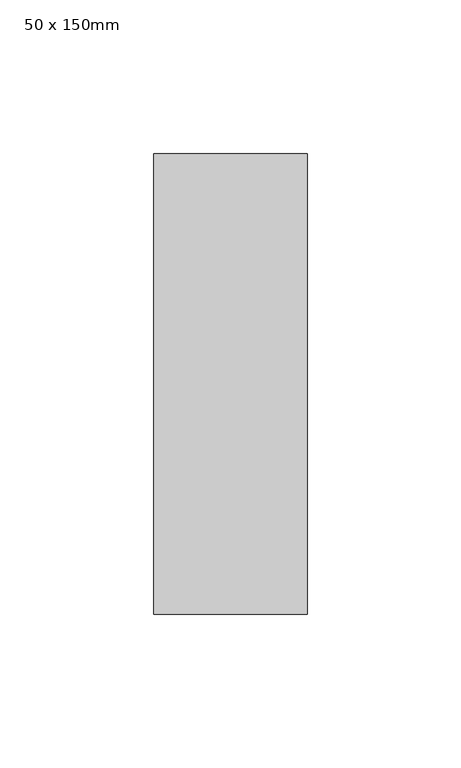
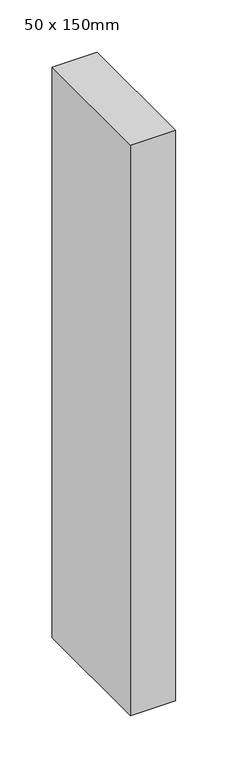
"""IFC4 building model written with IfcOpenShell, lengths in millimetres: member geometry, Prostokątny szpros : 50 x 150mm."""

from ifc_helpers import new_model, si_unit, frame, origin, place, context, project, spatial, polyline, outline, extrude, source, transform, mapped, element, save


def member_50_x_150mm_925638e4(model_context):
    return source(origin(), model_context, "Body", "SweptSolid", [
        extrude(outline(polyline([(0.0, 75.0), (0.0, -75.0), (-50.0, -75.0), (-50.0, 75.0), (0.0, 75.0)])), frame((0.0, 0.0, -666.6666666), z_axis=(0.0, 0.0, 1.0), x_axis=(1.0, 0.0, 0.0)), (0.0, 0.0, 1.0), 666.6666666),
    ])


if __name__ == "__main__":
    model = new_model("IFC4")
    model_context = context("Model", 3, world=origin())
    ifc_project = project(units=[si_unit("LENGTHUNIT", "METRE", prefix="MILLI")], contexts=[model_context])
    site = spatial("IfcSite", under=ifc_project)
    building = spatial("IfcBuilding", under=site)
    placement = place(None, origin())
    member_50_x_150mm_shape = member_50_x_150mm_925638e4(model_context)
    element("IfcMember", 1, ObjectType="Prostokątny szpros : 50 x 150mm", at=placement, inside=building, context=model_context, shape_type="MappedRepresentation", body=[
        mapped(member_50_x_150mm_shape, transform((0.0, 0.0, 0.0), x_axis=(1.0, 0.0, 0.0), y_axis=(0.0, 1.0, 0.0), z_axis=(0.0, 0.0, 1.0))),
    ])
    save(model, "model.ifc")
